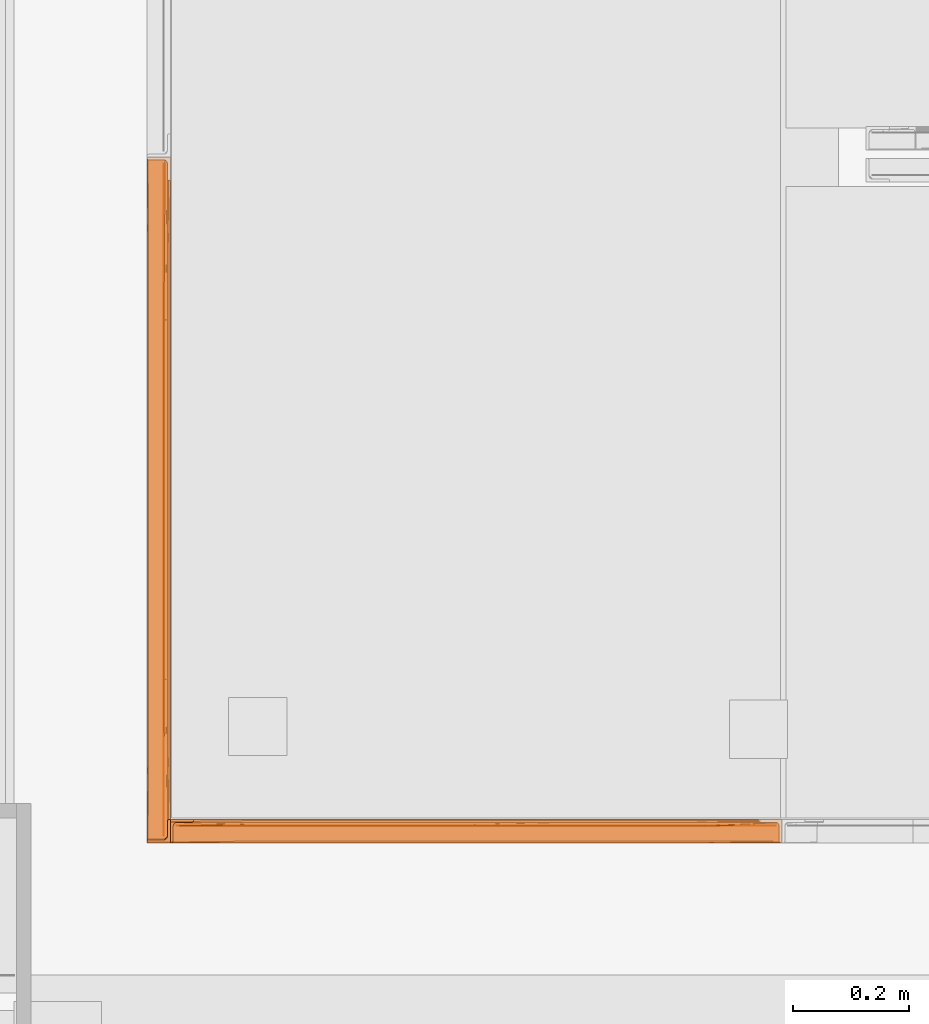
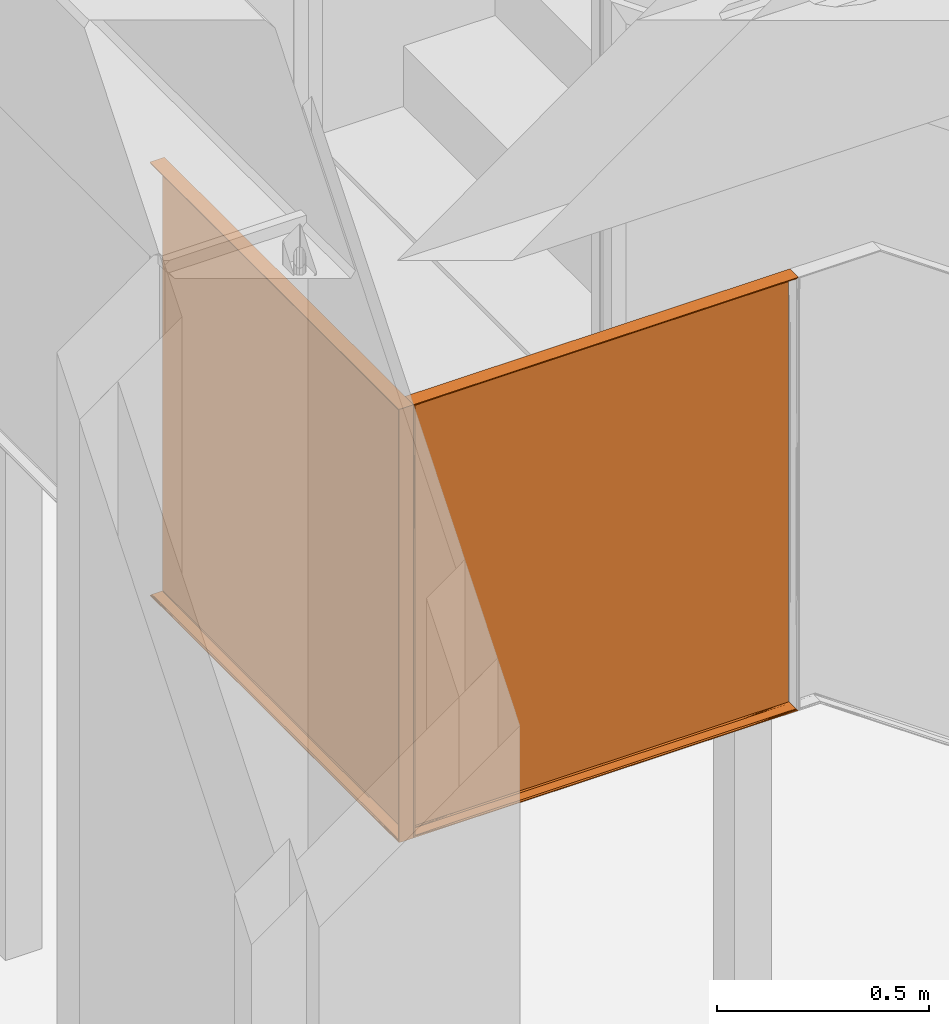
# One storey, part 216 of 230: 8 proxies.
"""IFC4X3_ADD2 building model written with IfcOpenShell, lengths in millimetres."""

import ifcopenshell
import ifcopenshell.guid

model = None  # the IFC model being written
_history = None  # IfcOwnerHistory: only IFC2X3 demands one
_inside = {}  # id of a spatial element -> (the spatial element, [elements in it])
_under = {}  # id of a project, library or spatial element -> (it, [spatial elements below it])
_declared = {}  # id of a project -> (the project, [libraries it declares])
_typed = {}  # id of a type object -> (the type object, [elements of that type])
_made_of = {}  # id of a material, layer set ... -> (it, [elements and type objects made of it])


def new_model(schema):
    """Start an empty IFC model of exactly this schema.

    Asked for "IFC4X3", IfcOpenShell would pick the latest addendum, in which some entities
    have other attributes; the version numbers below select the first issue.
    IFC2X3 requires an IfcOwnerHistory on every rooted entity: one is made here for all.
    """
    global model, _history
    if schema == "IFC4X3":
        model = ifcopenshell.file(schema_version=(4, 3, 0, 0))
    else:
        model = ifcopenshell.file(schema=schema)
    _inside.clear()
    _under.clear()
    _declared.clear()
    _typed.clear()
    _made_of.clear()
    _history = None
    if model.schema == "IFC2X3":
        org = make("IfcOrganization", Name="unknown")
        user = make(
            "IfcPersonAndOrganization",
            ThePerson=make("IfcPerson", FamilyName="unknown"),
            TheOrganization=org,
        )
        app = make(
            "IfcApplication",
            ApplicationDeveloper=org,
            Version="unknown",
            ApplicationFullName="unknown",
            ApplicationIdentifier="unknown",
        )
        _history = make(
            "IfcOwnerHistory",
            OwningUser=user,
            OwningApplication=app,
            ChangeAction="ADDED",
            CreationDate=0,
        )
    return model


def make(cls, **values):
    """One entity of the class cls with the attributes given. An attribute that is None is left unset."""
    return model.create_entity(
        cls, **{name: value for name, value in values.items() if value is not None}
    )


def rooted(cls, **values):
    """An entity with a GlobalId (a new one), such as an element, a storey or a relation."""
    return make(cls, GlobalId=ifcopenshell.guid.new(), OwnerHistory=_history, **values)


def si_unit(unit_type, name, prefix=None):
    """IfcSIUnit, for example si_unit("LENGTHUNIT", "METRE", prefix="MILLI")."""
    return make("IfcSIUnit", UnitType=unit_type, Prefix=prefix, Name=name)


def assignment(units):
    """IfcUnitAssignment: the units of a project."""
    return None if units is None else make("IfcUnitAssignment", Units=units)


def point(xyz):
    """IfcCartesianPoint."""
    return None if xyz is None else make("IfcCartesianPoint", Coordinates=xyz)


def direction(xyz):
    """IfcDirection."""
    return None if xyz is None else make("IfcDirection", DirectionRatios=xyz)


def frame(location, z_axis=None, x_axis=None):
    """IfcAxis2Placement3D, a coordinate frame: its origin and axes. An axis left out is left unset."""
    return make(
        "IfcAxis2Placement3D",
        Location=point(location),
        Axis=direction(z_axis),
        RefDirection=direction(x_axis),
    )


def origin_with_axes():
    """The frame at (0, 0, 0) with the z axis (0, 0, 1) and the x axis (1, 0, 0) written out."""
    return frame((0.0, 0.0, 0.0), z_axis=(0.0, 0.0, 1.0), x_axis=(1.0, 0.0, 0.0))


def place(relative_to, where):
    """IfcLocalPlacement: puts the frame where relative to a parent placement (None: the world)."""
    return make(
        "IfcLocalPlacement", PlacementRelTo=relative_to, RelativePlacement=where
    )


def context(
    kind, dimensions, precision=None, world=None, true_north=None, identifier=None
):
    """IfcGeometricRepresentationContext, for example the 3D "Model" context."""
    return make(
        "IfcGeometricRepresentationContext",
        ContextIdentifier=identifier,
        ContextType=kind,
        CoordinateSpaceDimension=dimensions,
        Precision=precision,
        WorldCoordinateSystem=world,
        TrueNorth=true_north,
    )


def subcontext(parent, identifier, kind, view, scale=None):
    """IfcGeometricRepresentationSubContext, for example "Body" below "Model"."""
    return make(
        "IfcGeometricRepresentationSubContext",
        ContextIdentifier=identifier,
        ContextType=kind,
        ParentContext=parent,
        TargetScale=scale,
        TargetView=view,
    )


def project(units=None, contexts=None):
    """IfcProject with its units and contexts."""
    return rooted(
        "IfcProject",
        Name="project",
        RepresentationContexts=contexts,
        UnitsInContext=assignment(units),
    )


def spatial(cls, under=None, at=None, **own):
    """A site, building, storey or space (cls), placed at a placement, below another one or the project."""
    s = rooted(cls, ObjectPlacement=at, **own)
    if under is not None:
        _under.setdefault(under.id(), (under, []))[1].append(s)
    return s


def point_list(points):
    """IfcCartesianPointList2D or 3D."""
    cls = (
        "IfcCartesianPointList2D" if len(points[0]) == 2 else "IfcCartesianPointList3D"
    )
    return make(cls, CoordList=points)


def triangles(points, corners, closed=None, point_numbers=None):
    """IfcTriangulatedFaceSet: each triangle names its three corners, points numbered from 1."""
    return make(
        "IfcTriangulatedFaceSet",
        Coordinates=point_list(points),
        Closed=closed,
        CoordIndex=corners,
        PnIndex=point_numbers,
    )


def polygons(points, faces, closed=None, point_numbers=None):
    """IfcPolygonalFaceSet: a face is its outer loop, then its inner loops; points numbered from 1."""
    made = []
    for loops in faces:
        if len(loops) == 1:
            made.append(make("IfcIndexedPolygonalFace", CoordIndex=loops[0]))
        else:
            made.append(
                make(
                    "IfcIndexedPolygonalFaceWithVoids",
                    CoordIndex=loops[0],
                    InnerCoordIndices=loops[1:],
                )
            )
    return make(
        "IfcPolygonalFaceSet",
        Coordinates=point_list(points),
        Closed=closed,
        Faces=made,
        PnIndex=point_numbers,
    )


def shape(context_of_items, identifier, shape_type, items):
    """IfcShapeRepresentation: the items that make up one representation, for example the "Body"."""
    return make(
        "IfcShapeRepresentation",
        ContextOfItems=context_of_items,
        RepresentationIdentifier=identifier,
        RepresentationType=shape_type,
        Items=items,
    )


def source(mapping_origin, context_of_items, identifier, shape_type, items):
    """IfcRepresentationMap: a shape defined once, which mapped items show again and again."""
    return make(
        "IfcRepresentationMap",
        MappingOrigin=mapping_origin,
        MappedRepresentation=shape(context_of_items, identifier, shape_type, items),
    )


def transform(
    local_origin,
    x_axis=None,
    y_axis=None,
    z_axis=None,
    scale=None,
    scale2=None,
    scale3=None,
    uniform=True,
):
    """IfcCartesianTransformationOperator3D, or its non-uniform kind. x_axis, y_axis, z_axis: its Axis1, 2, 3."""
    if uniform:
        return make(
            "IfcCartesianTransformationOperator3D",
            Axis1=direction(x_axis),
            Axis2=direction(y_axis),
            LocalOrigin=point(local_origin),
            Scale=scale,
            Axis3=direction(z_axis),
        )
    return make(
        "IfcCartesianTransformationOperator3DnonUniform",
        Axis1=direction(x_axis),
        Axis2=direction(y_axis),
        LocalOrigin=point(local_origin),
        Scale=scale,
        Axis3=direction(z_axis),
        Scale2=scale2,
        Scale3=scale3,
    )


def mapped(mapping_source, mapping_target):
    """IfcMappedItem: shows the shape of a source again, moved by a transform."""
    return make(
        "IfcMappedItem", MappingSource=mapping_source, MappingTarget=mapping_target
    )


def material(Name=None, Category=None):
    """IfcMaterial."""
    return make("IfcMaterial", Name=Name, Category=Category)


def made_of(thing, what):
    """Note that an element or type object is made of a material, layer set ...; save() writes the relation."""
    if what is not None:
        _made_of.setdefault(what.id(), (what, []))[1].append(thing)
    return thing


def type_object(cls, material=None, **own):
    """A type object (cls), such as IfcWallType, which elements share."""
    return made_of(rooted(cls, **own), material)


def type_shapes(of_type, sources):
    """Give a type object the sources (RepresentationMaps) that its elements show as mapped items."""
    of_type.RepresentationMaps = sources


def element(
    cls,
    number,
    at=None,
    inside=None,
    cuts=None,
    type_object=None,
    material=None,
    context=None,
    identifier="Body",
    shape_type=None,
    held_by="IfcProductDefinitionShape",
    body=None,
    shapes=None,
    **own,
):
    """One element of the class cls, such as IfcWall. Its Tag is "e" and its number.

    at: its placement. inside: the storey or other place that contains it. cuts: it is an
    opening in that element (IfcRelVoidsElement). A single representation is given by context,
    identifier, shape_type and body (its items); several are given by shapes. held_by: the class
    of the entity that holds the representations. save() writes the other relations.
    """
    e = rooted(cls, Tag="e%d" % number, ObjectPlacement=at, **own)
    if body is not None:
        shapes = [shape(context, identifier, shape_type, body)]
    if shapes is not None:
        e.Representation = make(held_by, Representations=shapes)
    if inside is not None:
        _inside.setdefault(inside.id(), (inside, []))[1].append(e)
    if cuts is not None:
        rooted(
            "IfcRelVoidsElement", RelatingBuildingElement=cuts, RelatedOpeningElement=e
        )
    if type_object is not None:
        _typed.setdefault(type_object.id(), (type_object, []))[1].append(e)
    return made_of(e, material)


def aggregate(whole, parts):
    """IfcRelAggregates: a whole, such as a stair, and the parts it consists of."""
    return rooted("IfcRelAggregates", RelatingObject=whole, RelatedObjects=parts)


def save(model, path):
    """Write the relations noted so far, then the file.

    IfcRelAggregates (storeys below a building ...), IfcRelContainedInSpatialStructure (elements
    in a storey), IfcRelDefinesByType, IfcRelAssociatesMaterial and IfcRelDeclares: one each for
    every whole, place, type object, material and project.
    """
    for whole, parts in _under.values():
        aggregate(whole, parts)
    for where, things in _inside.values():
        rooted(
            "IfcRelContainedInSpatialStructure",
            RelatedElements=things,
            RelatingStructure=where,
        )
    for kind, things in _typed.values():
        rooted("IfcRelDefinesByType", RelatedObjects=things, RelatingType=kind)
    for what, things in _made_of.values():
        rooted("IfcRelAssociatesMaterial", RelatedObjects=things, RelatingMaterial=what)
    for by, libraries in _declared.values():
        rooted("IfcRelDeclares", RelatingContext=by, RelatedDefinitions=libraries)
    model.write(path)


model = new_model("IFC4X3_ADD2")

# Units and contexts
model_context = context("Model", 3, precision=1e-05, world=origin_with_axes(), true_north=direction((0.0, 1.0)))
body_context = subcontext(model_context, "Body", "Model", "MODEL_VIEW")
ifc_project = project(units=[si_unit("LENGTHUNIT", "METRE", prefix="MILLI"), si_unit("AREAUNIT", "SQUARE_METRE"), si_unit("VOLUMEUNIT", "CUBIC_METRE"), si_unit("PLANEANGLEUNIT", "RADIAN"), si_unit("TIMEUNIT", "SECOND"), si_unit("MASSUNIT", "GRAM")], contexts=[model_context])

# Site, building, storey
site_placement = place(None, origin_with_axes())
site = spatial("IfcSite", under=ifc_project, at=site_placement, Name="Site", CompositionType="ELEMENT")
building_placement = place(site_placement, origin_with_axes())
building = spatial("IfcBuilding", under=site, at=building_placement, Name="IFC Building Story")
storey_placement = place(building_placement, origin_with_axes())
storey = spatial("IfcBuildingStorey", under=building, at=storey_placement, Name="ETAGE 00 (0)", Elevation=0.0)

# Proxies
ifc_material = material(Name="<Unnamed>")
building_element_proxy_type_1 = type_object("IfcBuildingElementProxyType", Name="13", PredefinedType="NOTDEFINED")
shared_shape_1 = source(origin_with_axes(), body_context, "Body", "Tessellation", [
    polygons([(0.0, 40.0, 0.0), (0.0, 0.0, 0.0), (2.00000000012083, 0.0, 2.00000000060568), (3.66671069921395, 0.5055911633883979, 3.66671069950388), (4.77163859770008, 1.85194970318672, 4.7716385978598), (5.00000000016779, 3.0000000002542, 5.00000000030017), (5.00000000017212, 29.000000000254, 5.00000000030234), (5.336700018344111, 30.9816743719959, 5.33670001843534), (6.309011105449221, 32.740938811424, 6.30901110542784), (7.259061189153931, 33.6909888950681, 7.259061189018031), (8.3966975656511, 34.4058132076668, 8.396697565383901), (9.66487439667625, 34.8495674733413, 9.66487439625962), (11.000000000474, 35.0000000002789, 10.9999999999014), (37.0000000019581, 35.0000000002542, 36.9999999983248), (38.6667107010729, 35.5055911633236, 38.666710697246), (39.7716385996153, 36.8519497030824, 39.7716385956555), (40.0, 38.0000000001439, 40.0), (40.0, 40.0, 40.0), (38.6667106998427, 35.5055911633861, 1211.33328930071), (39.7716385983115, 36.8519497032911, 1210.22836140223), (37.0000000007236, 35.0000000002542, 1212.99999999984), (40.0, 38.0000000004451, 1210.0), (11.0000000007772, 35.0000000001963, 1238.9999999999), (40.0, 40.0, 1210.0), (0.0, 0.0, 1250.0), (2.00000000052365, 0.0, 1248.00000000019), (3.66671069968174, 0.505591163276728, 1246.33328930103), (4.77163859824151, 1.85194970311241, 1245.22836140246), (5.000000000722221, 3.0000000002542, 1244.99999999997), (0.0, 40.0, 1250.0), (9.66487439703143, 34.8495674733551, 1240.33512560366), (8.39669756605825, 34.4058132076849, 1241.60330243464), (7.25906118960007, 33.6909888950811, 1242.7409388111), (6.39549285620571, 32.6683181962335, 1243.6045071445), (5.74865946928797, 31.9023133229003, 1244.25134053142), (5.08477388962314, 30.005037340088, 1244.91522611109), (5.00000000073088, 29.000000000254, 1244.99999999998)], [[[13, 14, 15]], [[13, 15, 16]], [[13, 16, 17]], [[13, 17, 18]], [[13, 18, 1]], [[1, 12, 13]], [[1, 11, 12]], [[1, 10, 11]], [[1, 9, 10]], [[1, 8, 9]], [[1, 7, 8]], [[1, 2, 3]], [[1, 3, 4]], [[1, 4, 5]], [[1, 5, 6]], [[1, 6, 7]], [[19, 20, 14]], [[14, 21, 19]], [[15, 14, 20]], [[20, 22, 15]], [[16, 15, 22]], [[22, 17, 16]], [[13, 23, 21, 14]], [[17, 22, 24, 18]], [[25, 26, 3, 2]], [[27, 28, 3]], [[3, 26, 27]], [[4, 3, 28]], [[28, 29, 4]], [[5, 4, 29]], [[29, 6, 5]], [[37, 29, 28]], [[37, 28, 27]], [[37, 27, 26]], [[37, 26, 25]], [[37, 25, 30]], [[30, 36, 37]], [[30, 35, 36]], [[30, 34, 35]], [[30, 33, 34]], [[30, 32, 33]], [[30, 31, 32]], [[30, 23, 31]], [[30, 24, 22]], [[30, 22, 20]], [[30, 20, 19]], [[30, 19, 21]], [[30, 21, 23]], [[33, 32, 9]], [[32, 31, 9]], [[10, 9, 31]], [[31, 11, 10]], [[31, 12, 11]], [[31, 23, 13, 12]], [[34, 9, 8]], [[8, 7, 35]], [[8, 35, 34]], [[7, 36, 35]], [[7, 37, 36]], [[9, 34, 33]], [[6, 29, 37, 7]], [[18, 24, 30, 1]], [[30, 25, 2, 1]]]),
])
type_shapes(building_element_proxy_type_1, [shared_shape_1])
proxy_1_placement = place(storey_placement, frame((33864.1894781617, 657.499963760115, 1670.0), z_axis=(0.0, 0.0, 1.0), x_axis=(1.0, 0.0, 0.0)))
element("IfcBuildingElementProxy", 1, at=proxy_1_placement, inside=storey, type_object=building_element_proxy_type_1, material=ifc_material, Name="7:2333", ObjectType="7:2333", context=body_context, shape_type="MappedRepresentation", body=[
    mapped(shared_shape_1, transform((0.0, 0.0, 0.0))),
])
building_element_proxy_type_2 = type_object("IfcBuildingElementProxyType", Name="21", PredefinedType="NOTDEFINED")
shared_shape_2 = source(origin_with_axes(), body_context, "Body", "Tessellation", [
    polygons([(38.0000756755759, 38.0000000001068, 40.0), (38.0000756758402, 1135.49999983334, 40.0), (40.0000756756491, 1135.49999983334, 40.0), (40.0000756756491, 38.0000000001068, 40.0), (36.9220444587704, 1135.68374322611, 39.8162566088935), (35.9087300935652, 1136.33645396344, 39.1635458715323), (35.0503918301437, 1137.98526190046, 37.5147379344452), (35.0000756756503, 1138.49999983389, 37.0000000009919), (35.0000756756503, 1164.49999983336, 11.0000000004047), (34.6704166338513, 1166.39616868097, 9.10383115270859), (33.8217894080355, 1168.06525565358, 7.434744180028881), (33.5147409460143, 1168.40179269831, 7.09820713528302), (32.8237213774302, 1169.15917699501, 6.3408228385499), (31.1904673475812, 1170.11972426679, 5.38027556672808), (29.0000756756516, 1170.4999998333, 5.00000000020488), (3.00007567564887, 1170.4999998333, 5.000000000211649), (1.9220444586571, 1170.68374322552, 4.81625660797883), (0.9087300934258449, 1171.33645396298, 4.16354587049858), (0.0503918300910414, 1172.98526190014, 2.51473793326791), (1.08321927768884e-05, 1173.49999983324, 2.00000000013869), (4.32106606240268e-05, 1175.49999983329, 0.0), (40.0000756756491, 1175.49999983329, 0.0), (40.0000756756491, 0.0, 0.0), (35.0000756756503, 1000.58124985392, 37.0000000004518), (35.0000756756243, 173.06874997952, 37.0000000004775), (36.9245799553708, 37.8214254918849, 39.8120268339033), (35.0552291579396, 35.6552831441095, 37.5318769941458), (35.0000756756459, 35.1500000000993, 37.0000000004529), (35.9178336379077, 37.2000841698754, 39.1579833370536), (35.0000756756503, 10.450000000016, 11.0000000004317), (35.0000756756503, 874.9209741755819, 11.0000000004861), (29.0000756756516, 879.062499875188, 5.00000000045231), (32.0139688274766, 877.007982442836, 7.97210850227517), (33.4707794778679, 6.74343946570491, 7.09835733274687), (32.7188362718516, 5.96540973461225, 6.27937866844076), (29.0000756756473, 296.187499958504, 5.00000000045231), (30.6595534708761, 4.9557473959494, 5.216576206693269), (29.000075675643, 4.750000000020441, 5.00000000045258), (34.6991915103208, 8.75375978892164, 9.21448398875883), (32.0108935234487, 298.128706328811, 7.9905811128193), (32.1025331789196, 587.568784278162, 8.08329309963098), (33.8611182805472, 7.147319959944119, 7.5234946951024), (29.0000756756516, 587.624999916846, 5.00000000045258), (3.00007567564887, 4.75000000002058, 5.00000000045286), (2.2953157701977e-05, 1027.04999986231, 2.00000000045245), (8.658815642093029e-05, 148.349999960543, 2.00000909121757), (1.92457995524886, 4.5714254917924, 4.81202683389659), (0.0552291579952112, 2.40528314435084, 2.53187699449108), (0.000107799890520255, 1.90000000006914, 2.00000000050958), (0.917833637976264, 3.95008416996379, 4.15798333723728), (0.000129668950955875, 0.0, 0.0)], [[[1, 2, 3, 4]], [[20, 21, 22]], [[20, 22, 15]], [[15, 16, 17]], [[15, 17, 18]], [[15, 18, 19]], [[15, 19, 20]], [[22, 14, 15]], [[22, 13, 14]], [[22, 12, 13]], [[22, 11, 12]], [[22, 10, 11]], [[22, 9, 10]], [[22, 3, 8]], [[22, 8, 9]], [[3, 2, 5]], [[3, 5, 6]], [[3, 6, 7]], [[3, 7, 8]], [[23, 4, 3, 22]], [[6, 5, 24]], [[24, 7, 6]], [[24, 8, 7]], [[24, 5, 2]], [[2, 1, 25, 24]], [[1, 26, 25]], [[27, 28, 25]], [[25, 29, 27]], [[25, 26, 29]], [[31, 9, 8]], [[31, 8, 24]], [[25, 28, 30]], [[30, 31, 24]], [[30, 24, 25]], [[14, 13, 32]], [[12, 33, 32]], [[32, 13, 12]], [[34, 35, 36]], [[37, 38, 36]], [[36, 35, 37]], [[30, 39, 40]], [[40, 41, 31, 30]], [[42, 34, 40]], [[40, 39, 42]], [[9, 31, 33]], [[33, 10, 9]], [[33, 11, 10]], [[33, 41, 43]], [[41, 33, 31]], [[43, 32, 33]], [[33, 12, 11]], [[36, 40, 34]], [[32, 15, 14]], [[36, 43, 41, 40]], [[36, 38, 44]], [[44, 43, 36]], [[44, 32, 43]], [[44, 16, 32]], [[16, 15, 32]], [[18, 17, 45]], [[45, 19, 18]], [[45, 20, 19]], [[45, 17, 16]], [[16, 44, 46, 45]], [[44, 47, 46]], [[48, 49, 46]], [[46, 50, 48]], [[46, 47, 50]], [[46, 49, 51]], [[51, 45, 46]], [[51, 21, 45]], [[21, 20, 45]], [[51, 23, 22, 21]], [[28, 27, 29]], [[28, 29, 26]], [[28, 26, 1]], [[28, 1, 4]], [[4, 23, 30]], [[4, 30, 28]], [[23, 39, 30]], [[23, 42, 39]], [[23, 34, 42]], [[23, 35, 34]], [[23, 37, 35]], [[23, 38, 37]], [[23, 49, 48]], [[23, 48, 50]], [[23, 50, 47]], [[23, 47, 44]], [[23, 44, 38]], [[23, 51, 49]]]),
])
type_shapes(building_element_proxy_type_2, [shared_shape_2])
proxy_2_placement = place(storey_placement, frame((33824.1894024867, 659.4999639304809, 1670.0), z_axis=(0.0, 0.0, 1.0), x_axis=(1.0, 0.0, 0.0)))
element("IfcBuildingElementProxy", 2, at=proxy_2_placement, inside=storey, type_object=building_element_proxy_type_2, material=ifc_material, Name="11:3812", ObjectType="11:3812", context=body_context, shape_type="MappedRepresentation", body=[
    mapped(shared_shape_2, transform((0.0, 0.0, 0.0))),
])
building_element_proxy_type_3 = type_object("IfcBuildingElementProxyType", Name="23", PredefinedType="NOTDEFINED")
shared_shape_3 = source(origin_with_axes(), body_context, "Body", "Tessellation", [
    triangles([(33864.1887817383, 697.499867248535, 2880.00008010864), (33862.1889038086, 697.499867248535, 2880.00008010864), (33862.1889038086, 697.499867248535, 1709.99998397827), (33864.1887817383, 697.499867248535, 1709.99998397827), (33824.1888977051, 657.499983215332, 2919.99996414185), (33824.1888977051, 657.499983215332, 1669.9999546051), (33824.1888977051, 659.49986114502, 2605.99994430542), (33824.1888977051, 659.49986114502, 1981.99995117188), (33824.1888977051, 659.49986114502, 1669.9999546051), (33824.1888977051, 659.49986114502, 2918.00008621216), (33859.1890869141, 668.499893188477, 2909.0000541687), (33859.1890869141, 694.4999050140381, 2882.99989700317), (33864.1887817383, 657.499983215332, 2919.99996414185), (33858.896081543, 666.480103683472, 2911.01969833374), (33858.3961120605, 665.312006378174, 2912.187940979), (33857.4891906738, 664.1879470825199, 2913.31200027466), (33859.1983886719, 694.7562847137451, 2882.74351730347), (33860.0262451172, 696.6699760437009, 2880.82997131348), (33860.8122436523, 697.213692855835, 2880.28610916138), (33824.1981994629, 659.756386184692, 2917.74341583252), (33825.0260559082, 661.669932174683, 2915.82986984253), (33827.1887145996, 662.499968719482, 2914.9999786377), (33825.8120544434, 662.213648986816, 2915.28629837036), (33857.2985046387, 663.9519149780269, 2913.54803237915), (33854.8474914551, 662.692108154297, 2914.80783920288), (33853.189453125, 662.499968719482, 2914.9999786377), (33853.189453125, 662.499968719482, 2602.67660064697), (33856.0985778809, 665.369270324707, 2601.28860397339), (33859.1890869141, 668.499893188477, 2599.77416152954), (33853.189453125, 662.499968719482, 2290.35336799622), (33856.2032226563, 665.493390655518, 2290.45030975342), (33858.6309814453, 665.7679378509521, 1676.59795303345), (33859.1658325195, 667.90341796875, 1678.84578094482), (33856.0613708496, 665.349940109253, 1979.58817977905), (33859.1890869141, 668.499893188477, 1679.47364959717), (33855.9009155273, 663.047755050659, 1673.73461036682), (33857.4496582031, 664.085773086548, 1674.82713088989), (33853.189453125, 662.499968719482, 1978.03013534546), (33857.5124450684, 664.175157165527, 1674.92131118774), (33853.189453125, 662.499968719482, 1673.15790138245), (33859.1890869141, 694.4999050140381, 2588.96057739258), (33859.1890869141, 694.4999050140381, 2000.88150215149), (33859.1890869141, 694.4999050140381, 1706.84203720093), (33859.6262695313, 696.162303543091, 1708.5919303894), (33860.6378356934, 697.1285236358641, 1709.60901947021), (33861.8958984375, 697.488240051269, 1709.98777542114), (33827.1887145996, 662.499968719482, 1673.15790138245), (33824.6260803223, 661.1622596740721, 1671.74984779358), (33825.6376464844, 662.128479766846, 1672.76693687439), (33826.8957092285, 662.4883415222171, 1673.14554748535), (33864.1887817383, 657.499983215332, 1669.9999546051), (33864.1887817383, 659.49986114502, 1669.9999546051)], [[1, 2, 3], [3, 4, 1], [5, 6, 7], [8, 6, 9], [7, 6, 8], [7, 10, 5], [1, 11, 12], [11, 1, 13], [14, 11, 13], [15, 14, 13], [13, 16, 15], [2, 1, 17], [2, 18, 19], [18, 2, 17], [1, 12, 17], [20, 21, 22], [20, 22, 10], [5, 10, 22], [23, 22, 21], [24, 16, 13], [25, 13, 26], [22, 26, 5], [24, 13, 25], [26, 13, 5], [27, 16, 24], [27, 25, 26], [27, 24, 25], [28, 11, 14], [11, 28, 29], [28, 15, 16], [28, 14, 15], [30, 28, 27], [31, 29, 28], [32, 33, 34], [34, 35, 31], [29, 31, 35], [34, 33, 35], [36, 37, 38], [39, 34, 38], [38, 40, 36], [34, 39, 32], [30, 31, 28], [16, 27, 28], [38, 34, 30], [31, 30, 34], [11, 29, 12], [12, 29, 41], [42, 35, 43], [42, 41, 29], [42, 29, 35], [2, 41, 3], [42, 3, 41], [41, 2, 19], [41, 17, 12], [41, 18, 17], [41, 19, 18], [44, 45, 42], [42, 43, 44], [42, 46, 3], [42, 45, 46], [22, 7, 47], [8, 47, 7], [7, 22, 23], [7, 20, 10], [7, 21, 20], [7, 23, 21], [48, 49, 8], [8, 9, 48], [8, 50, 47], [8, 49, 50], [13, 1, 51], [4, 52, 51], [4, 51, 1], [6, 5, 13], [13, 51, 6], [22, 47, 30], [30, 47, 38], [22, 30, 27], [40, 38, 47], [27, 26, 22], [52, 9, 6], [6, 51, 52], [43, 4, 3], [46, 45, 3], [44, 3, 45], [43, 35, 4], [43, 3, 44], [35, 33, 52], [35, 52, 4], [52, 33, 32], [36, 40, 52], [37, 36, 52], [39, 52, 32], [47, 50, 49], [48, 9, 47], [48, 47, 49], [47, 9, 40], [40, 9, 52]]),
])
type_shapes(building_element_proxy_type_3, [shared_shape_3])
proxy_3_placement = place(storey_placement, origin_with_axes())
element("IfcBuildingElementProxy", 3, at=proxy_3_placement, inside=storey, type_object=building_element_proxy_type_3, material=ifc_material, Name="12:4188", ObjectType="12:4188", context=body_context, shape_type="MappedRepresentation", body=[
    mapped(shared_shape_3, transform((0.0, 0.0, 0.0))),
])
building_element_proxy_type_4 = type_object("IfcBuildingElementProxyType", Name="27", PredefinedType="NOTDEFINED")
shared_shape_4 = source(origin_with_axes(), body_context, "Body", "Tessellation", [
    triangles([(33864.1887817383, 1795.00002822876, 2880.00008010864), (33862.1889038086, 1795.00002822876, 2880.00008010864), (33864.1887817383, 697.499867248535, 2880.00008010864), (33862.1889038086, 697.499867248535, 2880.00008010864), (33859.1890869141, 1824.00000228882, 2909.0000541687), (33859.1890869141, 1797.99999046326, 2882.99989700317), (33864.1887817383, 1834.99991226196, 2919.99996414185), (33859.0890930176, 1825.02944526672, 2910.02935180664), (33858.3682067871, 1827.00010986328, 2912.00016174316), (33857.6915039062, 1827.90034561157, 2912.90039749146), (33860.7634094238, 1795.33547286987, 2880.33552474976), (33861.5935913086, 1795.05162391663, 2880.05182113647), (33859.77974853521, 1796.20489654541, 2881.20494842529), (33824.7795593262, 1831.21729431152, 2916.21734619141), (33825.7701965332, 1830.33638877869, 2915.3362953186), (33827.1887145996, 1829.99992675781, 2914.9999786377), (33824.193548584, 1833.00003433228, 2918.00008621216), (33824.2005249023, 1834.99991226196, 2919.99996414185), (33826.5934020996, 1830.05253982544, 2915.05259170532), (33857.3729187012, 1828.32706375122, 2913.3271156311), (33855.345135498, 1829.63250732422, 2914.6325592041), (33853.189453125, 1829.99992675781, 2914.9999786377), (33864.1887817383, 657.499983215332, 2919.99996414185), (33859.1890869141, 1660.55460090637, 2882.99989700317), (33859.1890869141, 831.94522190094, 2882.99989700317), (33859.7750976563, 696.2660762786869, 2881.23401641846), (33860.7773620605, 697.162242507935, 2880.33755950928), (33859.1890869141, 694.4999050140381, 2882.99989700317), (33859.1890869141, 1535.12490234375, 2909.0000541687), (33859.1890869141, 668.499893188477, 2909.0000541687), (33856.2055480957, 1537.20253715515, 2912.02632293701), (33858.3635559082, 665.518243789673, 2911.98155822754), (33859.091418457, 667.496466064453, 2910.00348129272), (33856.1962463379, 955.2995384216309, 2912.01295166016), (33856.2962402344, 1246.24994773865, 2911.9132484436), (33855.3125793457, 662.8618652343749, 2914.6380821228), (33857.3496643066, 664.171814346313, 2913.3279876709), (33853.189453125, 953.249954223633, 2914.9999786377), (33857.6822021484, 664.6139385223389, 2912.88586349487), (33853.189453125, 1539.24994125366, 2914.9999786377), (33853.189453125, 1246.24994773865, 2914.9999786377), (33853.189453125, 662.499968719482, 2914.9999786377), (33827.1887145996, 662.499968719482, 2914.9999786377), (33824.1912231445, 1686.80459747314, 2917.99892349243), (33824.1888977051, 1246.24994773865, 2917.99892349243), (33824.1842468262, 805.695225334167, 2917.99892349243), (33824.7749084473, 661.266032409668, 2916.23391494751), (33825.7771728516, 662.1623439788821, 2915.33774871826), (33824.1842468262, 659.49986114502, 2918.00008621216), (33824.17959594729, 657.499983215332, 2919.99996414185)], [[1, 2, 3], [4, 3, 2], [1, 5, 6], [5, 1, 7], [8, 5, 7], [9, 8, 7], [7, 10, 9], [1, 6, 2], [2, 11, 12], [11, 2, 13], [6, 13, 2], [14, 15, 16], [14, 16, 17], [18, 17, 16], [19, 16, 15], [20, 10, 7], [21, 7, 22], [16, 22, 18], [20, 7, 21], [22, 7, 18], [7, 1, 3], [3, 23, 7], [2, 24, 25], [25, 4, 2], [24, 2, 12], [24, 12, 11], [24, 13, 6], [24, 11, 13], [26, 27, 25], [25, 27, 4], [25, 28, 26], [5, 24, 6], [24, 5, 29], [29, 30, 25], [28, 25, 30], [29, 25, 24], [31, 5, 8], [5, 31, 29], [31, 9, 10], [31, 8, 9], [32, 33, 34], [34, 30, 35], [29, 35, 30], [34, 33, 30], [36, 37, 38], [39, 34, 38], [38, 37, 39], [40, 10, 20], [40, 21, 22], [40, 20, 21], [35, 29, 31], [41, 31, 40], [41, 35, 31], [10, 40, 31], [38, 42, 36], [34, 39, 32], [38, 34, 41], [35, 41, 34], [22, 16, 40], [40, 16, 41], [41, 43, 38], [43, 41, 16], [42, 38, 43], [16, 44, 45], [45, 46, 43], [45, 43, 16], [44, 16, 19], [44, 19, 15], [44, 14, 17], [44, 15, 14], [47, 48, 46], [46, 48, 43], [46, 49, 47], [45, 44, 18], [17, 18, 44], [18, 50, 45], [50, 49, 46], [46, 45, 50], [7, 23, 18], [50, 18, 23], [28, 3, 4], [27, 26, 4], [28, 4, 26], [3, 30, 23], [30, 3, 28], [33, 32, 23], [30, 33, 23], [23, 32, 39], [39, 37, 23], [42, 43, 50], [42, 50, 23], [37, 36, 23], [48, 47, 43], [50, 43, 49], [43, 47, 49], [42, 23, 36]]),
])
type_shapes(building_element_proxy_type_4, [shared_shape_4])
proxy_4_placement = place(storey_placement, origin_with_axes())
element("IfcBuildingElementProxy", 4, at=proxy_4_placement, inside=storey, type_object=building_element_proxy_type_4, material=ifc_material, Name="14:4938", ObjectType="14:4938", context=body_context, shape_type="MappedRepresentation", body=[
    mapped(shared_shape_4, transform((0.0, 0.0, 0.0))),
])
building_element_proxy_type_5 = type_object("IfcBuildingElementProxyType", Name="29", PredefinedType="NOTDEFINED")
shared_shape_5 = source(origin_with_axes(), body_context, "Body", "Tessellation", [
    polygons([(0.0, 0.0, 1228.00000000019), (0.0, 1155.49999983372, 1228.00000000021), (0.0, 1155.4999998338, 0.0), (0.0, 1.44999999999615, 0.0)], [[[1, 2, 3, 4]]]),
])
type_shapes(building_element_proxy_type_5, [shared_shape_5])
proxy_5_placement = place(storey_placement, frame((33853.1894781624, 668.499963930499, 1680.99999999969), z_axis=(0.0, 0.0, 1.0), x_axis=(1.0, 0.0, 0.0)))
element("IfcBuildingElementProxy", 5, at=proxy_5_placement, inside=storey, type_object=building_element_proxy_type_5, material=ifc_material, Name="15:4990", ObjectType="15:4990", context=body_context, shape_type="MappedRepresentation", body=[
    mapped(shared_shape_5, transform((0.0, 0.0, 0.0))),
])
building_element_proxy_type_6 = type_object("IfcBuildingElementProxyType", Name="37", PredefinedType="NOTDEFINED")
shared_shape_6 = source(origin_with_axes(), body_context, "Body", "Tessellation", [
    polygons([(0.0, 0.0, 0.0), (1028.33121776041, 0.0, 0.0), (1028.33121776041, 0.0, 1227.99999999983), (0.0, 0.0, 1227.99999999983)], [[[1, 2, 3, 4]]]),
])
type_shapes(building_element_proxy_type_6, [shared_shape_6])
proxy_6_placement = place(storey_placement, frame((33875.1894781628, 686.499963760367, 1681.00000000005), z_axis=(0.0, 0.0, 1.0), x_axis=(1.0, 0.0, 0.0)))
element("IfcBuildingElementProxy", 6, at=proxy_6_placement, inside=storey, type_object=building_element_proxy_type_6, material=ifc_material, Name="19:5993", ObjectType="19:5993", context=body_context, shape_type="MappedRepresentation", body=[
    mapped(shared_shape_6, transform((0.0, 0.0, 0.0))),
])
building_element_proxy_type_7 = type_object("IfcBuildingElementProxyType", Name="39", PredefinedType="NOTDEFINED")
shared_shape_7 = source(origin_with_axes(), body_context, "Body", "Tessellation", [
    triangles([(34874.520135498, 697.499867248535, 2880.00008010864), (33904.1886657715, 697.499867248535, 2880.00008010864), (33904.1886657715, 695.4999893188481, 2880.00008010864), (34874.520135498, 695.4999893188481, 2880.00008010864), (34877.5199523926, 692.499881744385, 2882.99989700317), (34874.8573242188, 694.0801631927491, 2880.33639678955), (34875.7386657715, 693.08908996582, 2881.21744766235), (34874.5736206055, 694.9043861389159, 2880.05240249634), (34903.520690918, 692.499881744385, 2909.0000541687), (34914.5200195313, 697.499867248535, 2919.99996414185), (34904.5252807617, 692.401050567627, 2910.00348129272), (34905.4601074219, 692.056740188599, 2910.93976135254), (34906.5019042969, 691.673769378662, 2911.98184890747), (34907.4065002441, 690.993142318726, 2912.88586349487), (34907.8483337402, 690.6603137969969, 2913.3279876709), (34908.678515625, 689.613575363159, 2914.15816955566), (34909.520324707, 686.4999572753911, 2914.9999786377), (34914.5200195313, 657.499983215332, 2919.99996414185), (34909.1598815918, 688.623374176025, 2914.6380821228), (34908.9017578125, 689.153719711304, 2914.38112106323), (34909.520324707, 660.4341064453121, 2915.00055999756), (34909.8575134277, 659.088113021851, 2915.33774871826), (34910.7551330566, 658.086575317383, 2916.23391494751), (34912.5201416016, 657.499983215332, 2918.00008621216), (34780.4630859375, 686.4999572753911, 2914.9999786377), (34650.5640380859, 686.4999572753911, 2914.9999786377), (34258.6112182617, 686.4999572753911, 2914.9999786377), (33869.1884765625, 660.4999454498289, 2914.9999786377), (33933.5938476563, 686.4999572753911, 2914.9999786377), (33869.1884765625, 686.4999572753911, 2914.9999786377), (34128.147088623, 686.4999572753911, 2914.9999786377), (33998.245715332, 686.4999572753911, 2914.9999786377), (33934.2333435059, 689.133081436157, 2914.44216384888), (33869.9000610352, 689.388443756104, 2914.28926620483), (33869.8093688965, 689.156481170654, 2914.37995834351), (33870.9860412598, 690.781091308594, 2913.20299530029), (33998.8805603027, 689.097909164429, 2914.47733612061), (34000.4083740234, 690.552035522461, 2912.77627716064), (33871.2999755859, 690.998083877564, 2912.88935165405), (34002.0106018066, 692.082901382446, 2911.01359405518), (33875.190435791, 692.499881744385, 2909.0000541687), (33874.918359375, 692.492324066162, 2909.2700958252), (33873.2370666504, 692.114585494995, 2910.95255126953), (34779.8305664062, 689.0980545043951, 2914.47733612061), (34648.5223022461, 689.5239006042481, 2912.02283477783), (34778.3027526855, 690.551744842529, 2912.77627716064), (34259.7251037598, 689.5863967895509, 2911.95714111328), (34389.3544006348, 689.620987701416, 2911.92342224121), (34518.9836975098, 689.589594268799, 2911.95510635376), (34774.979699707, 692.499881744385, 2908.99976348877), (34132.2724182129, 692.499881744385, 2908.99976348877), (34776.7005249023, 692.083046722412, 2911.01359405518), (34130.1864990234, 689.5475910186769, 2912.04434509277), (34003.731427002, 692.499881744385, 2909.0000541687), (33873.0510314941, 692.072872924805, 2911.13829574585), (33872.5022277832, 691.830155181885, 2911.68622741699), (33869.3698608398, 688.0299510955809, 2914.81946640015), (33901.188848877, 692.499881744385, 2882.99989700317), (34022.7395690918, 692.499881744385, 2882.99989700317), (34755.9715576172, 692.499881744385, 2882.99989700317), (33903.8514770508, 694.088156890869, 2880.33755950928), (33902.9561828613, 693.0864738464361, 2881.23401641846), (33864.1887817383, 697.499867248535, 2919.99996414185), (33864.1887817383, 657.499983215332, 2919.99996414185), (33996.4876831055, 657.499983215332, 2918.00008621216), (34782.2211181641, 657.499983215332, 2918.00008621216), (33869.1187133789, 659.821934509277, 2915.07003250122), (33868.7745483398, 658.952220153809, 2915.41506958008), (33867.4932312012, 657.8160976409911, 2916.69493331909), (33866.188659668, 657.499983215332, 2918.00008621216)], [[1, 2, 3], [3, 4, 1], [5, 1, 4], [6, 7, 4], [6, 4, 8], [5, 4, 7], [1, 9, 10], [9, 1, 5], [10, 9, 11], [12, 13, 10], [12, 10, 11], [10, 13, 14], [15, 16, 10], [14, 15, 10], [17, 18, 10], [19, 10, 20], [20, 10, 16], [21, 22, 23], [24, 18, 21], [24, 21, 23], [21, 18, 17], [17, 10, 19], [17, 25, 21], [21, 26, 27], [26, 21, 25], [21, 27, 28], [29, 30, 28], [31, 32, 28], [28, 32, 29], [31, 28, 27], [33, 34, 35], [33, 36, 34], [33, 37, 38], [38, 39, 33], [40, 41, 42], [40, 42, 43], [26, 25, 44], [44, 45, 26], [44, 46, 45], [47, 48, 27], [27, 48, 49], [49, 45, 26], [49, 26, 27], [16, 15, 44], [14, 46, 44], [44, 15, 14], [20, 44, 25], [25, 19, 20], [50, 49, 45], [49, 50, 48], [48, 51, 47], [51, 48, 50], [45, 52, 50], [9, 50, 52], [52, 11, 9], [12, 52, 46], [46, 13, 12], [47, 51, 53], [53, 54, 40], [54, 53, 51], [53, 40, 38], [38, 43, 55], [38, 55, 56], [38, 56, 39], [27, 53, 31], [37, 31, 53], [31, 37, 32], [53, 38, 37], [29, 35, 57], [29, 57, 30], [33, 32, 37], [32, 33, 29], [35, 29, 33], [53, 27, 47], [43, 38, 40], [46, 14, 13], [52, 12, 11], [45, 46, 52], [25, 17, 19], [44, 20, 16], [41, 40, 54], [33, 39, 36], [41, 54, 58], [59, 58, 54], [54, 51, 59], [50, 9, 5], [50, 60, 51], [60, 50, 5], [51, 60, 59], [3, 59, 60], [60, 4, 3], [59, 3, 61], [59, 62, 58], [59, 61, 62], [7, 6, 60], [60, 8, 4], [60, 6, 8], [60, 5, 7], [63, 2, 10], [1, 10, 2], [63, 10, 64], [18, 64, 10], [28, 65, 21], [66, 21, 65], [65, 28, 67], [65, 67, 68], [65, 69, 70], [65, 68, 69], [23, 22, 66], [66, 22, 21], [66, 24, 23], [18, 24, 66], [18, 66, 64], [65, 70, 64], [65, 64, 66], [63, 42, 41], [42, 63, 43], [63, 41, 2], [55, 43, 63], [56, 55, 63], [63, 39, 56], [58, 3, 2], [3, 62, 61], [62, 3, 58], [2, 41, 58], [28, 68, 67], [68, 28, 69], [28, 70, 69], [70, 28, 64], [28, 30, 64], [36, 39, 63], [34, 36, 63], [35, 34, 63], [57, 63, 30], [63, 57, 35], [30, 63, 64]]),
])
type_shapes(building_element_proxy_type_7, [shared_shape_7])
proxy_7_placement = place(storey_placement, origin_with_axes())
element("IfcBuildingElementProxy", 7, at=proxy_7_placement, inside=storey, type_object=building_element_proxy_type_7, material=ifc_material, Name="20:6516", ObjectType="20:6516", context=body_context, shape_type="MappedRepresentation", body=[
    mapped(shared_shape_7, transform((0.0, 0.0, 0.0))),
])
building_element_proxy_type_8 = type_object("IfcBuildingElementProxyType", Name="57", PredefinedType="NOTDEFINED")
shared_shape_8 = source(origin_with_axes(), body_context, "Body", "Tessellation", [
    polygons([(0.0, 0.0, 0.0), (1.23620111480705e-08, 0.0, 2.0000000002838), (131.040731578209, 0.0, 2.00000000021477), (917.2851218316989, 1.21283825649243e-08, 1.9999999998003), (1048.32585283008, 1.38609699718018e-08, 1.99999999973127), (1050.22585283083, 1.39298673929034e-08, 0.0), (1012.22585283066, 40.0, 40.0), (1012.22585283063, 38.0000000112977, 40.0), (126.528231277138, 38.0000000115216, 40.0), (2.24175153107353e-07, 38.0000000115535, 40.0), (2.24136169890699e-07, 40.0, 40.0), (1050.22585283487, 40.0, 0.0), (1046.93973807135, 0.348580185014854, 3.45906817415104), (1045.86632236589, 1.42390654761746, 4.58897944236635), (1045.50450549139, 2.54730028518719, 4.96983931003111), (1045.47585283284, 3.00000001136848, 5.0000000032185), (1045.4758528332, 29.0000000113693, 5.00000000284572), (1045.28146647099, 30.6460722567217, 5.20461722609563), (1044.72140707, 32.1038816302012, 5.79415343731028), (1043.82854343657, 33.2661014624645, 6.734009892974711), (1043.64112688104, 33.5100572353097, 6.93129047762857), (1042.32968707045, 34.4192233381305, 8.31175343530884), (1042.04327835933, 34.542678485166, 8.613236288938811), (1041.81792303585, 34.6398168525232, 8.85045241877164), (1039.77585283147, 35.0000000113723, 11.0000000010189), (1015.07585282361, 35.0000000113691, 36.999999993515), (1013.68970235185, 35.3486023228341, 38.4591057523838), (1012.61631565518, 36.423918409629, 39.5889864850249), (1012.25450560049, 37.5473067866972, 39.9698391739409), (2.19042362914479e-08, 0.514331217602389, 3.70776137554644), (2.71453131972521e-08, 1.53217734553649, 4.64700356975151), (130.684481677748, 3.00000001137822, 5.000000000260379), (2.90814796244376e-08, 3.00000001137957, 5.00000000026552), (0.0, 40.0, 0.0), (130.684481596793, 29.000000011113, 5.000000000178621), (522.7379264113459, 29.000000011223, 5.00000000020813), (653.4224080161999, 29.0000000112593, 5.00000000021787), (784.106889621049, 29.0000000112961, 5.00000000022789), (914.7913712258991, 29.0000000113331, 5.00000000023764), (2.85140572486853e-08, 29.0000000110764, 5.00000000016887), (2.16824651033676e-07, 35.4899879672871, 38.6764719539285), (2.22013750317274e-07, 36.4730204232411, 39.6079881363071), (126.884482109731, 35.0000000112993, 37.0000000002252), (2.07451353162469e-07, 35.0000000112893, 37.0000000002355), (888.1913706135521, 35.0000000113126, 37.00000000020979), (649.8599080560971, 35.0000000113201, 11.0000000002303), (259.943963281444, 35.0000000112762, 11.0000000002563), (129.971981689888, 35.0000000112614, 11.000000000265), (6.19659886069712e-08, 35.0000000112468, 11.0000000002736), (521.38476165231, 31.9178501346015, 7.87070242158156), (652.035966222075, 32.604586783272, 7.353108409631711), (130.334359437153, 32.0352735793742, 7.94928306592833), (3.01123691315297e-08, 30.9797500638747, 5.29285352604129), (3.53794348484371e-08, 32.7475697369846, 6.24230631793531), (4.32843648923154e-08, 34.0223023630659, 7.65768965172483), (651.2761568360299, 34.5418902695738, 8.62033775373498), (260.673957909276, 31.9944736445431, 7.948496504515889), (5.32207536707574e-08, 34.79382631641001, 9.4385491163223), (782.461284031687, 32.5774643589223, 7.32009456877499), (914.6933600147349, 29.2705453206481, 5.13978071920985), (781.532149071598, 34.5444800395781, 8.617317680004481)], [[[4, 5, 6]], [[6, 3, 4]], [[6, 1, 3]], [[1, 2, 3]], [[9, 10, 11]], [[9, 11, 7]], [[7, 8, 9]], [[8, 7, 12]], [[12, 25, 26]], [[12, 26, 27]], [[12, 27, 28]], [[12, 28, 29]], [[12, 29, 8]], [[12, 24, 25]], [[12, 23, 24]], [[12, 22, 23]], [[12, 21, 22]], [[12, 20, 21]], [[12, 19, 20]], [[12, 18, 19]], [[12, 17, 18]], [[12, 6, 16]], [[12, 16, 17]], [[6, 5, 13]], [[6, 13, 14]], [[6, 14, 15]], [[6, 15, 16]], [[30, 31, 3]], [[3, 2, 30]], [[32, 3, 31]], [[31, 33, 32]], [[4, 3, 32, 16]], [[16, 15, 4]], [[15, 14, 4]], [[13, 5, 4]], [[4, 14, 13]], [[34, 1, 6, 12]], [[12, 7, 11, 34]], [[39, 17, 16]], [[16, 38, 39]], [[16, 37, 38]], [[16, 36, 37]], [[16, 32, 36]], [[32, 35, 36]], [[32, 33, 40]], [[32, 40, 35]], [[41, 42, 43]], [[43, 44, 41]], [[9, 43, 42]], [[42, 10, 9]], [[45, 43, 9, 8]], [[8, 29, 45]], [[29, 28, 45]], [[27, 26, 45]], [[45, 28, 27]], [[48, 49, 44]], [[48, 44, 43]], [[43, 47, 48]], [[43, 45, 46]], [[43, 46, 47]], [[45, 26, 25]], [[45, 25, 46]], [[36, 50, 51]], [[52, 35, 40]], [[40, 53, 52]], [[53, 54, 52]], [[54, 55, 52]], [[46, 56, 50]], [[47, 46, 50, 57]], [[56, 51, 50]], [[55, 58, 52]], [[48, 52, 58]], [[58, 49, 48]], [[38, 59, 60]], [[59, 38, 37]], [[20, 19, 39]], [[18, 17, 39]], [[39, 19, 18]], [[36, 35, 57, 50]], [[47, 57, 52]], [[25, 24, 61]], [[24, 23, 61]], [[25, 61, 56, 46]], [[61, 59, 51, 56]], [[21, 20, 60]], [[60, 22, 21]], [[60, 59, 61, 23]], [[60, 23, 22]], [[52, 48, 47]], [[35, 52, 57]], [[39, 60, 20]], [[37, 51, 59]], [[60, 39, 38]], [[51, 37, 36]], [[40, 33, 31]], [[40, 31, 30]], [[40, 30, 2]], [[40, 2, 1]], [[40, 1, 34]], [[34, 53, 40]], [[34, 54, 53]], [[34, 55, 54]], [[34, 58, 55]], [[34, 49, 58]], [[34, 11, 10]], [[34, 10, 42]], [[34, 42, 41]], [[34, 41, 44]], [[34, 44, 49]]]),
])
type_shapes(building_element_proxy_type_8, [shared_shape_8])
proxy_8_placement = place(storey_placement, frame((33864.1894876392, 657.4999637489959, 1670.0), z_axis=(0.0, 0.0, 1.0), x_axis=(1.0, 0.0, 0.0)))
element("IfcBuildingElementProxy", 8, at=proxy_8_placement, inside=storey, type_object=building_element_proxy_type_8, material=ifc_material, Name="29:9689", ObjectType="29:9689", context=body_context, shape_type="MappedRepresentation", body=[
    mapped(shared_shape_8, transform((0.0, 0.0, 0.0))),
])

save(model, "model.ifc")
